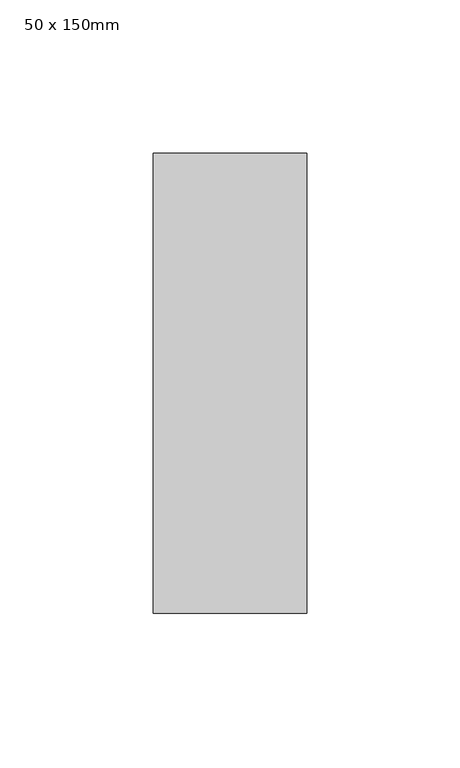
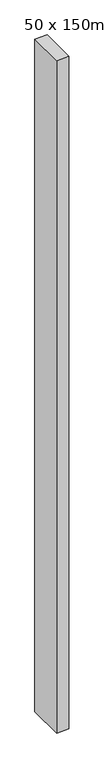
"""IFC4 building model written with IfcOpenShell, lengths in millimetres: member geometry, 矩形竖梃 : 50 x 150mm."""

from ifc_helpers import new_model, si_unit, frame, origin, place, context, project, spatial, polyline, outline, extrude, source, transform, mapped, element, save


def member_50_x_150mm_8e7af95f(model_context):
    return source(origin(), model_context, "Body", "SweptSolid", [
        extrude(outline(polyline([(0.0, 75.0), (0.0, -75.0), (-50.0, -75.0), (-50.0, 75.0), (0.0, 75.0)])), frame((0.0, 0.0, -2850.0), z_axis=(0.0, 0.0, 1.0), x_axis=(1.0, 0.0, 0.0)), (0.0, 0.0, 1.0), 2850.0),
    ])


if __name__ == "__main__":
    model = new_model("IFC4")
    model_context = context("Model", 3, world=origin())
    ifc_project = project(units=[si_unit("LENGTHUNIT", "METRE", prefix="MILLI")], contexts=[model_context])
    site = spatial("IfcSite", under=ifc_project)
    building = spatial("IfcBuilding", under=site)
    placement = place(None, origin())
    member_50_x_150mm_shape = member_50_x_150mm_8e7af95f(model_context)
    element("IfcMember", 1, ObjectType="矩形竖梃 : 50 x 150mm", at=placement, inside=building, context=model_context, shape_type="MappedRepresentation", body=[
        mapped(member_50_x_150mm_shape, transform((0.0, 0.0, 0.0), x_axis=(1.0, 0.0, 0.0), y_axis=(0.0, 1.0, 0.0), z_axis=(0.0, 0.0, 1.0))),
    ])
    save(model, "model.ifc")
